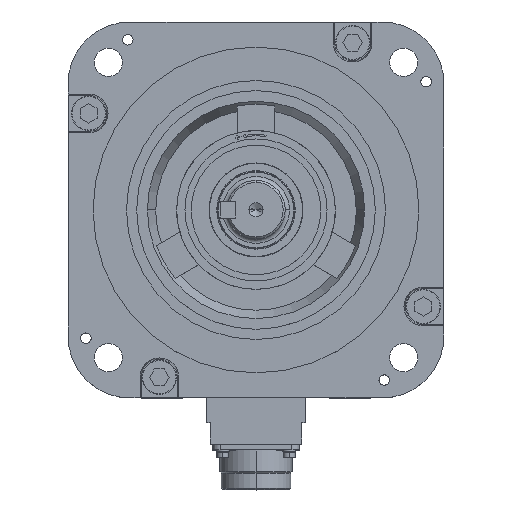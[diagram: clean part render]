
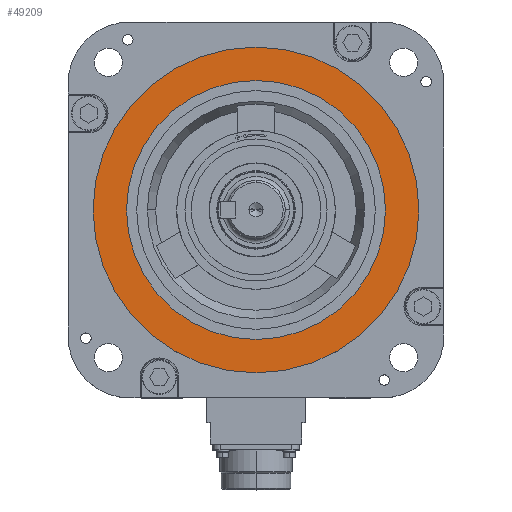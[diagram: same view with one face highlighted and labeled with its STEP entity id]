
A CAD part, top view. The second image highlights one B-rep face of the part: STEP entity #49209.
In plain terms, the highlighted planar face has unit normal (0, 0, 1).
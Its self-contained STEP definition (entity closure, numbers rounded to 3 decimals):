
#2720 = EDGE_CURVE ( 'NONE', #42538, #39336, #17751, .T. ) ;
#3867 = AXIS2_PLACEMENT_3D ( 'NONE', #42930, #22647, #13905 ) ;
#4120 = PLANE ( 'NONE',  #19775 ) ;
#4962 = CARTESIAN_POINT ( 'NONE',  ( 0., 0., -0.5 ) ) ;
#7405 = DIRECTION ( 'NONE',  ( 0., 0., 1. ) ) ;
#8051 = CIRCLE ( 'NONE', #35935, 78. ) ;
#8497 = CIRCLE ( 'NONE', #49054, 78. ) ;
#8623 = DIRECTION ( 'NONE',  ( 0., 0., 1. ) ) ;
#10720 = VERTEX_POINT ( 'NONE', #23056 ) ;
#13905 = DIRECTION ( 'NONE',  ( -1., 0., 0. ) ) ;
#14753 = FACE_BOUND ( 'NONE', #27304, .T. ) ;
#15398 = CARTESIAN_POINT ( 'NONE',  ( 0., 0., -0.5 ) ) ;
#15812 = ORIENTED_EDGE ( 'NONE', *, *, #2720, .T. ) ;
#16071 = CARTESIAN_POINT ( 'NONE',  ( 0., 0., -0.5 ) ) ;
#16604 = CIRCLE ( 'NONE', #3867, 62. ) ;
#16833 = EDGE_CURVE ( 'NONE', #10720, #28824, #8497, .T. ) ;
#17751 = CIRCLE ( 'NONE', #37990, 62. ) ;
#19775 = AXIS2_PLACEMENT_3D ( 'NONE', #16071, #24842, #43768 ) ;
#20813 = CARTESIAN_POINT ( 'NONE',  ( 62., 0., -0.5 ) ) ;
#22647 = DIRECTION ( 'NONE',  ( 0., 0., -1. ) ) ;
#23056 = CARTESIAN_POINT ( 'NONE',  ( -78., 0., -0.5 ) ) ;
#23618 = DIRECTION ( 'NONE',  ( 1., 0., 0. ) ) ;
#24017 = DIRECTION ( 'NONE',  ( 0., 0., -1. ) ) ;
#24842 = DIRECTION ( 'NONE',  ( 0., 0., 1. ) ) ;
#24846 = CARTESIAN_POINT ( 'NONE',  ( 78., 0., -0.5 ) ) ;
#27304 = EDGE_LOOP ( 'NONE', ( #36953, #15812 ) ) ;
#28824 = VERTEX_POINT ( 'NONE', #24846 ) ;
#29937 = EDGE_CURVE ( 'NONE', #28824, #10720, #8051, .T. ) ;
#30860 = FACE_OUTER_BOUND ( 'NONE', #48473, .T. ) ;
#33972 = ORIENTED_EDGE ( 'NONE', *, *, #16833, .T. ) ;
#34558 = CARTESIAN_POINT ( 'NONE',  ( 0., 0., -0.5 ) ) ;
#35935 = AXIS2_PLACEMENT_3D ( 'NONE', #4962, #8623, #40110 ) ;
#36076 = CARTESIAN_POINT ( 'NONE',  ( -62., 0., -0.5 ) ) ;
#36953 = ORIENTED_EDGE ( 'NONE', *, *, #48506, .T. ) ;
#37990 = AXIS2_PLACEMENT_3D ( 'NONE', #34558, #24017, #51955 ) ;
#39336 = VERTEX_POINT ( 'NONE', #36076 ) ;
#40110 = DIRECTION ( 'NONE',  ( 1., 0., 0. ) ) ;
#40454 = ORIENTED_EDGE ( 'NONE', *, *, #29937, .T. ) ;
#42538 = VERTEX_POINT ( 'NONE', #20813 ) ;
#42930 = CARTESIAN_POINT ( 'NONE',  ( 0., 0., -0.5 ) ) ;
#43768 = DIRECTION ( 'NONE',  ( 1., 0., 0. ) ) ;
#48473 = EDGE_LOOP ( 'NONE', ( #40454, #33972 ) ) ;
#48506 = EDGE_CURVE ( 'NONE', #39336, #42538, #16604, .T. ) ;
#49054 = AXIS2_PLACEMENT_3D ( 'NONE', #15398, #7405, #23618 ) ;
#49209 = ADVANCED_FACE ( 'NONE', ( #14753, #30860 ), #4120, .T. ) ;
#51955 = DIRECTION ( 'NONE',  ( -1., 0., 0. ) ) ;
